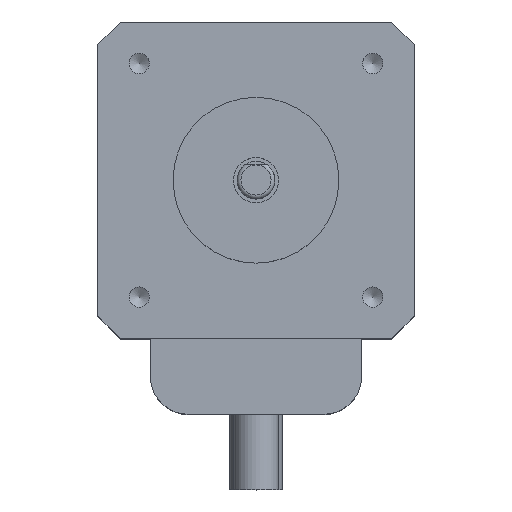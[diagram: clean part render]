
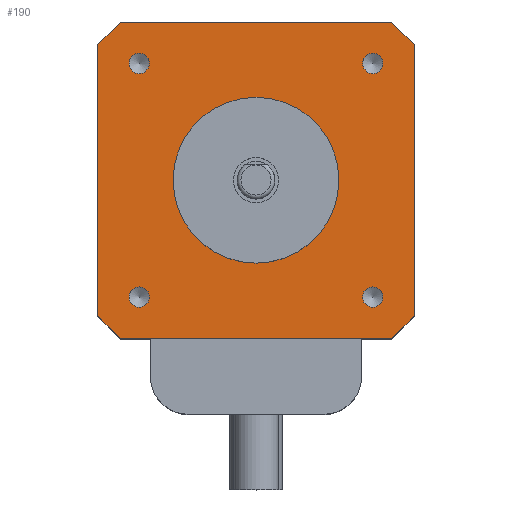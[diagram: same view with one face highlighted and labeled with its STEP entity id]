
A CAD part, top view. The second image highlights one B-rep face of the part: STEP entity #190.
In plain terms, the highlighted planar face has unit normal (0, 0, 1).
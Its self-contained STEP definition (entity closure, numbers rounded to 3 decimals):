
#190=ADVANCED_FACE('',(#342,#343,#344,#345,#346,#347),#258,.F.);
#258=PLANE('',#1336);
#307=CIRCLE('',#1323,11.);
#309=CIRCLE('',#1332,1.35);
#310=CIRCLE('',#1333,1.35);
#311=CIRCLE('',#1334,1.35);
#312=CIRCLE('',#1335,1.35);
#342=FACE_BOUND('',#397,.T.);
#343=FACE_BOUND('',#398,.T.);
#344=FACE_BOUND('',#399,.T.);
#345=FACE_BOUND('',#400,.T.);
#346=FACE_BOUND('',#401,.T.);
#347=FACE_BOUND('',#402,.T.);
#397=EDGE_LOOP('',(#533));
#398=EDGE_LOOP('',(#534));
#399=EDGE_LOOP('',(#535));
#400=EDGE_LOOP('',(#536));
#401=EDGE_LOOP('',(#537));
#402=EDGE_LOOP('',(#538,#539,#540,#541,#542,#543,#544,#545));
#533=ORIENTED_EDGE('',*,*,#945,.T.);
#534=ORIENTED_EDGE('',*,*,#946,.T.);
#535=ORIENTED_EDGE('',*,*,#947,.T.);
#536=ORIENTED_EDGE('',*,*,#948,.T.);
#537=ORIENTED_EDGE('',*,*,#931,.T.);
#538=ORIENTED_EDGE('',*,*,#934,.F.);
#539=ORIENTED_EDGE('',*,*,#949,.T.);
#540=ORIENTED_EDGE('',*,*,#942,.F.);
#541=ORIENTED_EDGE('',*,*,#950,.T.);
#542=ORIENTED_EDGE('',*,*,#939,.F.);
#543=ORIENTED_EDGE('',*,*,#951,.T.);
#544=ORIENTED_EDGE('',*,*,#936,.F.);
#545=ORIENTED_EDGE('',*,*,#952,.T.);
#814=VERTEX_POINT('',#1849);
#816=VERTEX_POINT('',#1856);
#817=VERTEX_POINT('',#1858);
#818=VERTEX_POINT('',#1862);
#819=VERTEX_POINT('',#1863);
#820=VERTEX_POINT('',#1868);
#821=VERTEX_POINT('',#1869);
#822=VERTEX_POINT('',#1874);
#823=VERTEX_POINT('',#1875);
#824=VERTEX_POINT('',#1880);
#825=VERTEX_POINT('',#1882);
#826=VERTEX_POINT('',#1884);
#827=VERTEX_POINT('',#1886);
#931=EDGE_CURVE('',#814,#814,#307,.T.);
#934=EDGE_CURVE('',#816,#817,#1080,.T.);
#936=EDGE_CURVE('',#818,#819,#1082,.T.);
#939=EDGE_CURVE('',#820,#821,#1085,.T.);
#942=EDGE_CURVE('',#822,#823,#1088,.T.);
#945=EDGE_CURVE('',#824,#824,#309,.T.);
#946=EDGE_CURVE('',#825,#825,#310,.T.);
#947=EDGE_CURVE('',#826,#826,#311,.T.);
#948=EDGE_CURVE('',#827,#827,#312,.T.);
#949=EDGE_CURVE('',#816,#823,#1091,.T.);
#950=EDGE_CURVE('',#822,#821,#1092,.T.);
#951=EDGE_CURVE('',#820,#819,#1093,.T.);
#952=EDGE_CURVE('',#818,#817,#1094,.T.);
#1080=LINE('',#1857,#1207);
#1082=LINE('',#1861,#1209);
#1085=LINE('',#1867,#1212);
#1088=LINE('',#1873,#1215);
#1091=LINE('',#1887,#1218);
#1092=LINE('',#1888,#1219);
#1093=LINE('',#1889,#1220);
#1094=LINE('',#1890,#1221);
#1207=VECTOR('',#1479,1.);
#1209=VECTOR('',#1483,1.);
#1212=VECTOR('',#1488,1.);
#1215=VECTOR('',#1493,1.);
#1218=VECTOR('',#1506,1.);
#1219=VECTOR('',#1507,1.);
#1220=VECTOR('',#1508,1.);
#1221=VECTOR('',#1509,1.);
#1323=AXIS2_PLACEMENT_3D('',#1848,#1468,#1469);
#1332=AXIS2_PLACEMENT_3D('',#1879,#1498,#1499);
#1333=AXIS2_PLACEMENT_3D('',#1881,#1500,#1501);
#1334=AXIS2_PLACEMENT_3D('',#1883,#1502,#1503);
#1335=AXIS2_PLACEMENT_3D('',#1885,#1504,#1505);
#1336=AXIS2_PLACEMENT_3D('',#1891,#1510,#1511);
#1468=DIRECTION('',(0.,0.,-1.));
#1469=DIRECTION('',(1.,0.,0.));
#1479=DIRECTION('',(0.,1.,0.));
#1483=DIRECTION('',(1.,0.,0.));
#1488=DIRECTION('',(0.,-1.,0.));
#1493=DIRECTION('',(-1.,0.,0.));
#1498=DIRECTION('',(0.,0.,-1.));
#1499=DIRECTION('',(-1.,0.,0.));
#1500=DIRECTION('',(0.,0.,-1.));
#1501=DIRECTION('',(-1.,0.,0.));
#1502=DIRECTION('',(0.,0.,-1.));
#1503=DIRECTION('',(-1.,0.,0.));
#1504=DIRECTION('',(0.,0.,-1.));
#1505=DIRECTION('',(-1.,0.,0.));
#1506=DIRECTION('',(0.707,-0.707,0.));
#1507=DIRECTION('',(0.707,0.707,0.));
#1508=DIRECTION('',(-0.707,0.707,0.));
#1509=DIRECTION('',(-0.707,-0.707,0.));
#1510=DIRECTION('',(0.,0.,-1.));
#1511=DIRECTION('',(-1.,0.,0.));
#1848=CARTESIAN_POINT('',(0.,0.,0.));
#1849=CARTESIAN_POINT('',(11.,0.,0.));
#1856=CARTESIAN_POINT('',(-21.,-18.,0.));
#1857=CARTESIAN_POINT('',(-21.,-21.,0.));
#1858=CARTESIAN_POINT('',(-21.,18.,0.));
#1861=CARTESIAN_POINT('',(-21.,21.,0.));
#1862=CARTESIAN_POINT('',(-18.,21.,0.));
#1863=CARTESIAN_POINT('',(18.,21.,0.));
#1867=CARTESIAN_POINT('',(21.,21.,0.));
#1868=CARTESIAN_POINT('',(21.,18.,0.));
#1869=CARTESIAN_POINT('',(21.,-18.,0.));
#1873=CARTESIAN_POINT('',(21.,-21.,0.));
#1874=CARTESIAN_POINT('',(18.,-21.,0.));
#1875=CARTESIAN_POINT('',(-18.,-21.,0.));
#1879=CARTESIAN_POINT('',(15.5,-15.5,0.));
#1880=CARTESIAN_POINT('',(14.15,-15.5,0.));
#1881=CARTESIAN_POINT('',(15.5,15.5,0.));
#1882=CARTESIAN_POINT('',(14.15,15.5,0.));
#1883=CARTESIAN_POINT('',(-15.5,15.5,0.));
#1884=CARTESIAN_POINT('',(-16.85,15.5,0.));
#1885=CARTESIAN_POINT('',(-15.5,-15.5,0.));
#1886=CARTESIAN_POINT('',(-16.85,-15.5,0.));
#1887=CARTESIAN_POINT('',(-21.,-18.,0.));
#1888=CARTESIAN_POINT('',(18.,-21.,0.));
#1889=CARTESIAN_POINT('',(21.,18.,0.));
#1890=CARTESIAN_POINT('',(-18.,21.,0.));
#1891=CARTESIAN_POINT('',(-21.,-21.,0.));
